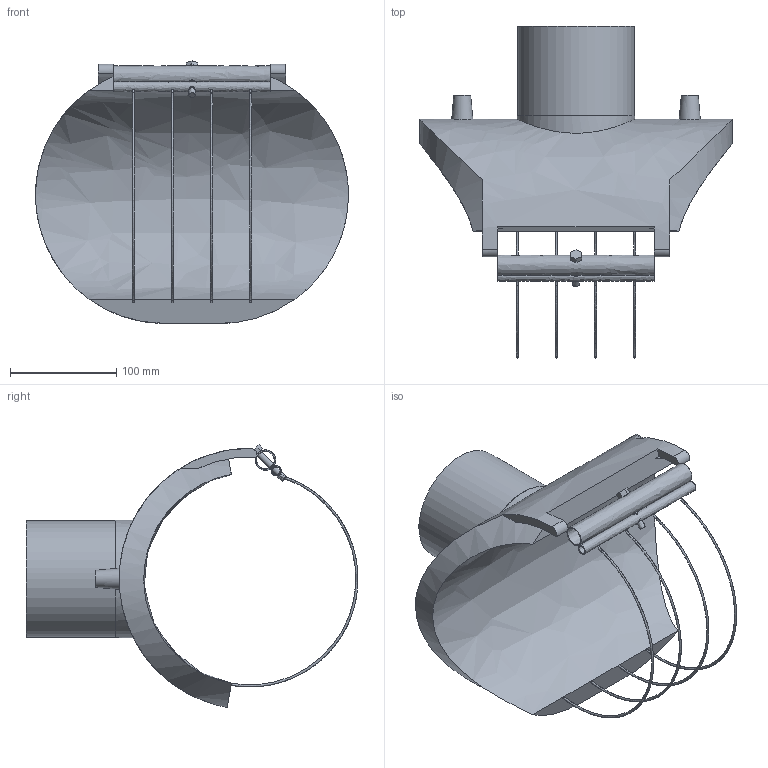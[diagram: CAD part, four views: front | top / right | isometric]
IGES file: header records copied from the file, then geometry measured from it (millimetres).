
Global section: file name: 4958X4200110T; native system: Autodesk Inventor 2021; preprocessor: unknown; author: KIM; date: 20250507.121527; units: millimetre
Bounding box: 295 x 313 x 247.76 mm (x, y, z)
Volume: 2075281.7 mm3; surface area: 277063.2 mm2
Topology: 1 solids, 1 shells, 61 faces, 179 edges, 122 vertices
Faces by surface type: bspline 61
